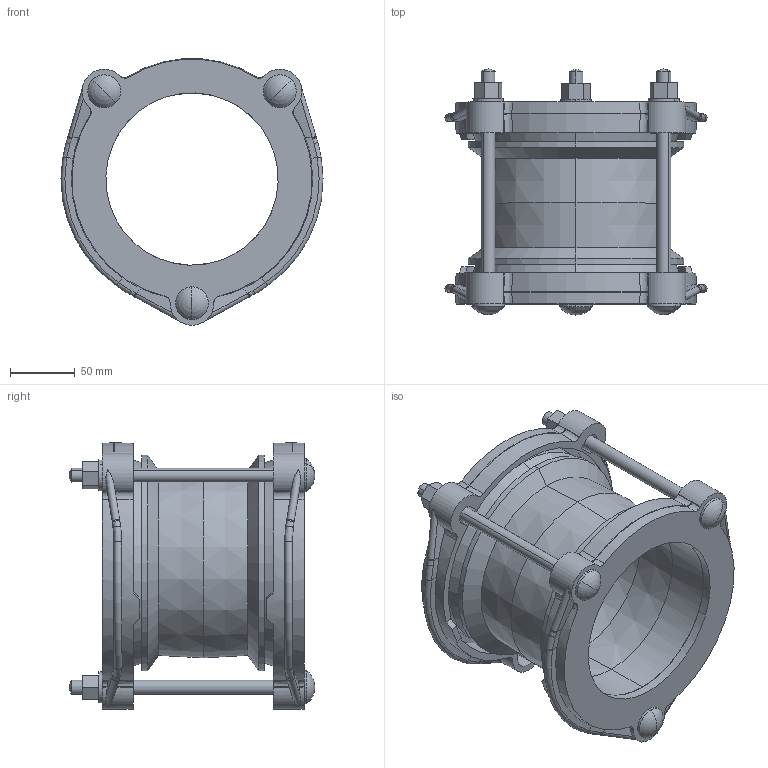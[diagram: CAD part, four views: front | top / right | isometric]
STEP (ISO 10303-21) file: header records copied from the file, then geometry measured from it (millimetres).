
FILE_DESCRIPTION((''),'2;1');
FILE_NAME('BIM_12393_ALT_48','2018-09-18T',('MReader'),(''),'CREO PARAMETRIC BY PTC INC, 2016130','CREO PARAMETRIC BY PTC INC, 2016130','');
FILE_SCHEMA(('CONFIG_CONTROL_DESIGN'));
Length unit declared in the file: millimetre
Products named in the file (1): BIM_12393_ALT_48
Bounding box: 203 x 190.33 x 206.47 mm (x, y, z)
Volume: 1017923.1 mm3; surface area: 296461.7 mm2
Topology: 1 solids, 1 shells, 308 faces, 790 edges, 498 vertices
Faces by surface type: plane 120, cylinder 78, bspline 52, cone 40, sphere 12, torus 6
Entity records: 11364 total; most frequent: CARTESIAN_POINT 4348, ORIENTED_EDGE 1556, DIRECTION 1302, EDGE_CURVE 778, VERTEX_POINT 498, AXIS2_PLACEMENT_3D 492, EDGE_LOOP 342, VECTOR 318
